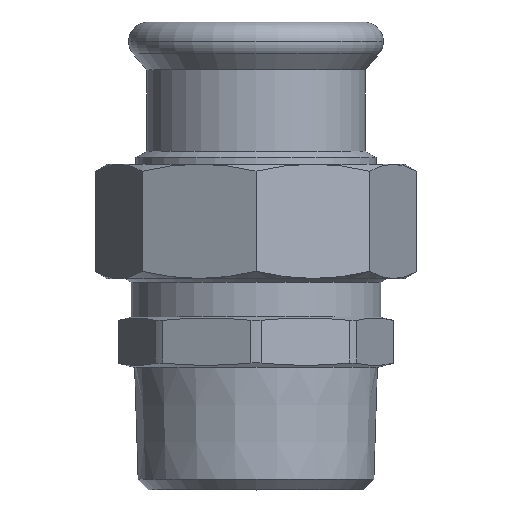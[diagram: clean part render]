
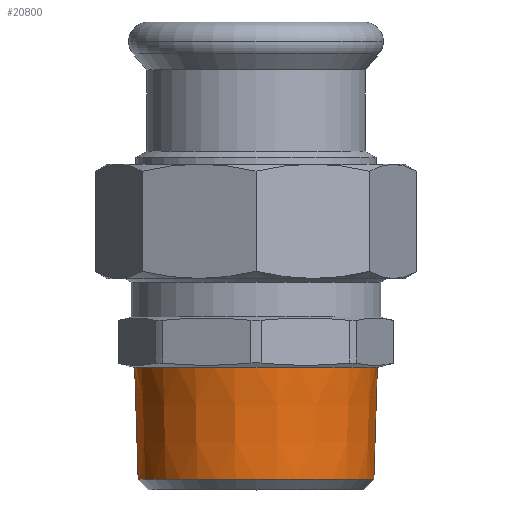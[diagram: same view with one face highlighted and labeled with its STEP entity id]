
A CAD part, top view. The second image highlights one B-rep face of the part: STEP entity #20800.
In plain terms, the highlighted conical face has half-angle 1.79 degrees and reference radius 21.227 mm.
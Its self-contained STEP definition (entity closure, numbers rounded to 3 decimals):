
#8370=CARTESIAN_POINT('',(150.361,2.219,
0.));
#8380=VERTEX_POINT('',#8370);
#10710=CARTESIAN_POINT('',(192.815,2.219,0.));
#10720=VERTEX_POINT('',#10710);
#10750=CARTESIAN_POINT('',(171.588,2.219,0.));
#10760=DIRECTION('',(0.,1.,0.));
#10770=DIRECTION('',(1.,0.,0.));
#10780=AXIS2_PLACEMENT_3D('',#10750,#10760,#10770);
#10790=CIRCLE('',#10780,21.227);
#10800=EDGE_CURVE('',#8380,#10720,#10790,.T.);
#11360=CARTESIAN_POINT('',(150.974,-17.379,
0.));
#11370=VERTEX_POINT('',#11360);
#11400=CARTESIAN_POINT('',(171.588,-17.379,0.));
#11410=DIRECTION('',(0.,1.,0.));
#11420=DIRECTION('',(1.,0.,0.));
#11430=AXIS2_PLACEMENT_3D('',#11400,#11410,#11420);
#11440=CIRCLE('',#11430,20.614);
#11450=CARTESIAN_POINT('',(192.202,-17.379,0.));
#11460=VERTEX_POINT('',#11450);
#11470=EDGE_CURVE('',#11370,#11460,#11440,.T.);
#20590=CARTESIAN_POINT('',(171.588,2.219,0.));
#20600=DIRECTION('',(0.,1.,0.));
#20610=DIRECTION('',(1.,0.,0.));
#20620=AXIS2_PLACEMENT_3D('',#20590,#20600,#20610);
#20630=CONICAL_SURFACE('',#20620,21.227,0.031);
#20640=CARTESIAN_POINT('',(150.361,2.219,
0.));
#20650=DIRECTION('',(-0.031,1.,
0.));
#20660=VECTOR('',#20650,679.59);
#20670=LINE('',#20640,#20660);
#20680=EDGE_CURVE('',#11370,#8380,#20670,.T.);
#20690=ORIENTED_EDGE('',*,*,#20680,.F.);
#20700=ORIENTED_EDGE('',*,*,#10800,.F.);
#20710=CARTESIAN_POINT('',(192.815,2.219,0.));
#20720=DIRECTION('',(0.031,1.,0.));
#20730=VECTOR('',#20720,679.59);
#20740=LINE('',#20710,#20730);
#20750=EDGE_CURVE('',#11460,#10720,#20740,.T.);
#20760=ORIENTED_EDGE('',*,*,#20750,.T.);
#20770=ORIENTED_EDGE('',*,*,#11470,.T.);
#20780=EDGE_LOOP('',(#20770,#20760,#20700,#20690));
#20790=FACE_OUTER_BOUND('',#20780,.T.);
#20800=ADVANCED_FACE('',(#20790),#20630,.T.);
